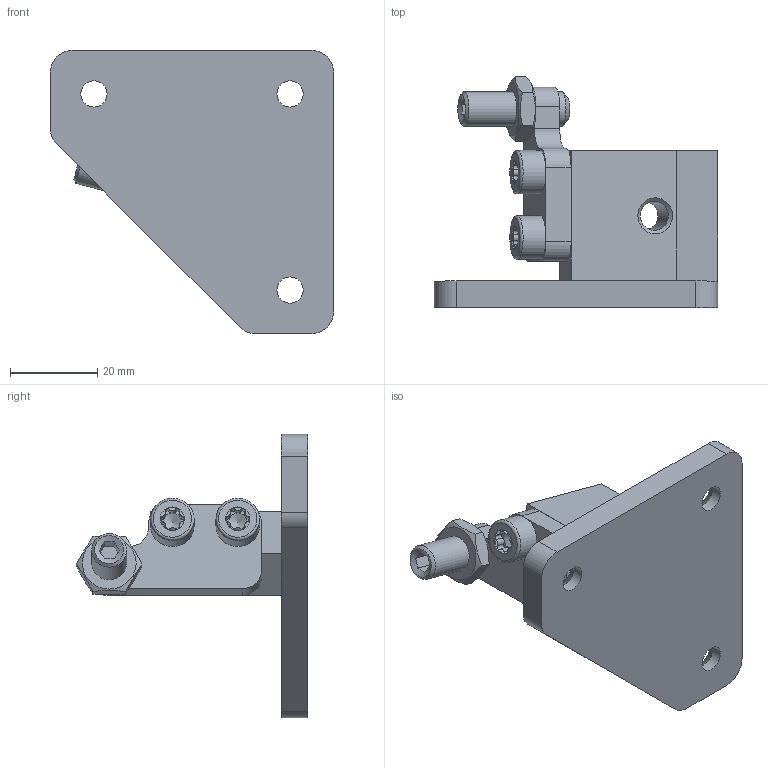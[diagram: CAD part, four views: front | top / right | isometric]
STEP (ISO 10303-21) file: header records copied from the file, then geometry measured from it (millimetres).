
FILE_DESCRIPTION(('STEP AP242'), '1');
FILE_NAME('ﾀﾊﾑﾋ.001.02.000 - ﾊ煇鳫', '', ('UNSPECIFIED'), ('UNSPECIFIED'), 'C3D Converter', 'C3D Toolkit', '');
FILE_SCHEMA(('AP242_MANAGED_MODEL_BASED_3D_ENGINEERING_MIM_LF { 1 0 10303 442 1 1 4 }'));
Length unit declared in the file: millimetre
Products named in the file (8): АКСЛ.001.02.000; АКСЛ.001.02.001; АКСЛ.001.02.010; АКСЛ.001.02.011; АКСЛ.001.02.012
Assembly tree (8 placements, depth 3):
  АКСЛ.001.02.000
    АКСЛ.001.02.001
    (unnamed)  x2
    (unnamed)
    (unnamed)
    АКСЛ.001.02.010
      АКСЛ.001.02.011
      АКСЛ.001.02.012
Bounding box: 65 x 53.01 x 65 mm (x, y, z)
Volume: 33640.5 mm3; surface area: 16385 mm2
Topology: 7 solids, 7 shells, 145 faces, 339 edges, 210 vertices
Faces by surface type: plane 68, cylinder 52, cone 21, torus 4
Full cylindrical faces by diameter (mm): 4.917 x2, 5.6 x2, 6 x5, 6.5 x2, 6.647 x3, 8 x1, 10 x2
Entity records: 5191 total; most frequent: CARTESIAN_POINT 1335, DIRECTION 561, ORIENTED_EDGE 446, AXIS2_PLACEMENT_3D 236, EDGE_CURVE 223, EDGE_LOOP 163, VERTEX_POINT 160, COLOUR_RGB 117
